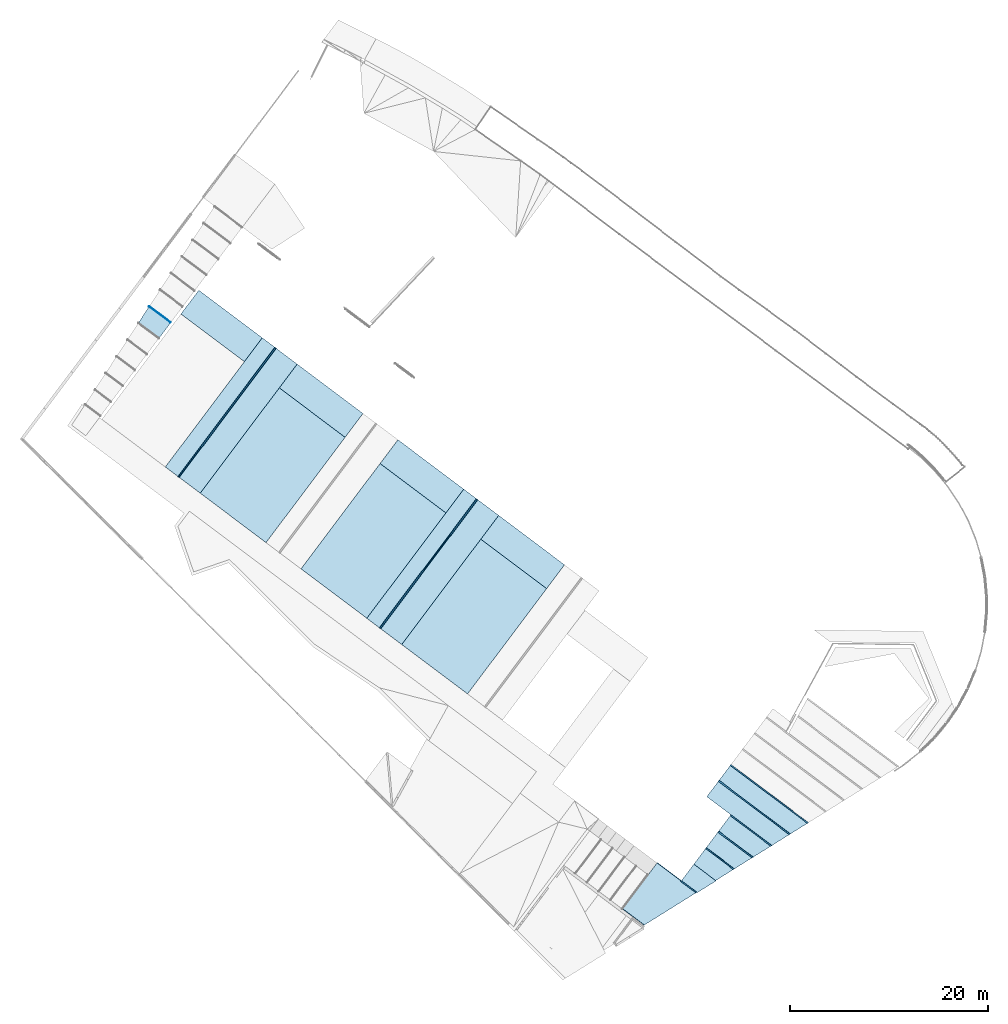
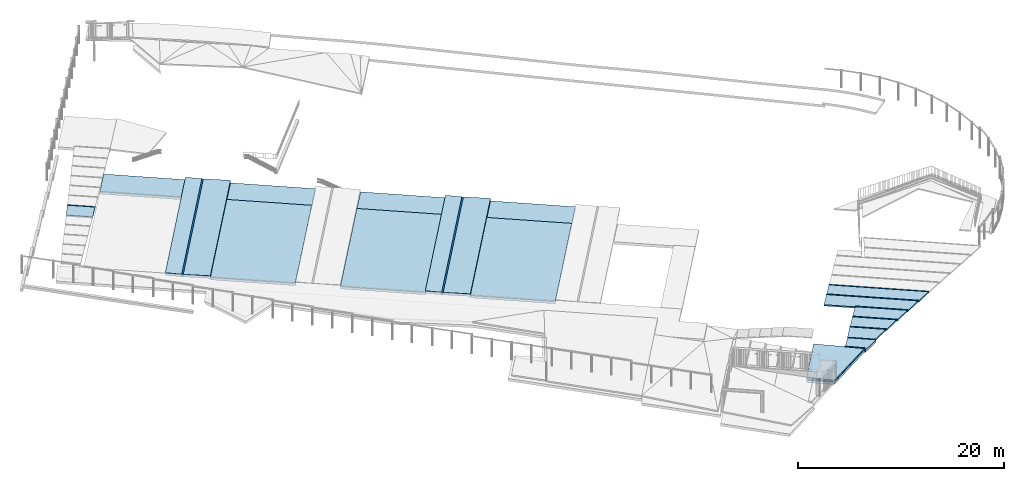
# One storey, part 21 of 33: 29 slabs.
"""IFC2X3 building model written with IfcOpenShell, lengths in metres."""

from ifc_helpers import new_model, entity, si_unit, converted_unit, derived_unit, direction, frame, frame_2d, origin, origin_2d_with_axis, place, context, subcontext, project, spatial, polyline, rectangle, outline, extrude, clip, halfspace, material, layer, layer_set, layer_usage, type_object, element, save


model = new_model("IFC2X3")

# Units and contexts
model_context = context("Model", 3, precision=1e-05, world=origin(), true_north=direction((6.123031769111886e-17, 1.0)))
body_context = subcontext(model_context, "Body", "Model", "MODEL_VIEW")
ifc_project = project(units=[si_unit("LENGTHUNIT", "METRE"), si_unit("AREAUNIT", "SQUARE_METRE"), si_unit("VOLUMEUNIT", "CUBIC_METRE"), converted_unit("PLANEANGLEUNIT", "DEGREE", entity("IfcRatioMeasure", 0.017453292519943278), si_unit("PLANEANGLEUNIT", "RADIAN"), dimensions=[0, 0, 0, 0, 0, 0, 0]), si_unit("MASSUNIT", "GRAM", prefix="KILO"), derived_unit("MASSDENSITYUNIT", [(si_unit("MASSUNIT", "GRAM", prefix="KILO"), 1), (si_unit("LENGTHUNIT", "METRE"), -3)]), derived_unit("IONCONCENTRATIONUNIT", [(si_unit("MASSUNIT", "GRAM", prefix="KILO"), 1), (si_unit("LENGTHUNIT", "METRE"), -3)]), derived_unit("MOMENTOFINERTIAUNIT", [(si_unit("LENGTHUNIT", "METRE"), 4)]), si_unit("TIMEUNIT", "SECOND"), si_unit("FREQUENCYUNIT", "HERTZ"), si_unit("THERMODYNAMICTEMPERATUREUNIT", "DEGREE_CELSIUS"), derived_unit("THERMALTRANSMITTANCEUNIT", [(si_unit("MASSUNIT", "GRAM", prefix="KILO"), 1), (si_unit("THERMODYNAMICTEMPERATUREUNIT", "KELVIN"), -1), (si_unit("TIMEUNIT", "SECOND"), -3)]), derived_unit("THERMALCONDUCTANCEUNIT", [(si_unit("MASSUNIT", "GRAM", prefix="KILO"), 1), (si_unit("THERMODYNAMICTEMPERATUREUNIT", "KELVIN"), -1), (si_unit("TIMEUNIT", "SECOND"), -3), (si_unit("LENGTHUNIT", "METRE"), 1)]), derived_unit("VOLUMETRICFLOWRATEUNIT", [(si_unit("LENGTHUNIT", "METRE"), 3), (si_unit("TIMEUNIT", "SECOND"), -1)]), derived_unit("MASSFLOWRATEUNIT", [(si_unit("MASSUNIT", "GRAM", prefix="KILO"), 1), (si_unit("TIMEUNIT", "SECOND"), -1)]), derived_unit("ROTATIONALFREQUENCYUNIT", [(si_unit("TIMEUNIT", "SECOND"), -1)]), si_unit("ELECTRICCURRENTUNIT", "AMPERE"), si_unit("ELECTRICVOLTAGEUNIT", "VOLT"), si_unit("POWERUNIT", "WATT"), si_unit("FORCEUNIT", "NEWTON", prefix="KILO"), si_unit("ILLUMINANCEUNIT", "LUX"), si_unit("LUMINOUSFLUXUNIT", "LUMEN"), si_unit("LUMINOUSINTENSITYUNIT", "CANDELA"), derived_unit("USERDEFINED", [(si_unit("MASSUNIT", "GRAM", prefix="KILO"), -1), (si_unit("LENGTHUNIT", "METRE"), -2), (si_unit("TIMEUNIT", "SECOND"), 3), (si_unit("LUMINOUSFLUXUNIT", "LUMEN"), 1)]), derived_unit("USERDEFINED", [(si_unit("MASSUNIT", "GRAM", prefix="KILO"), 1), (si_unit("TIMEUNIT", "SECOND"), -3), (si_unit("LENGTHUNIT", "METRE"), 3), (si_unit("ELECTRICCURRENTUNIT", "AMPERE"), -2)]), derived_unit("SOUNDPOWERUNIT", [(si_unit("MASSUNIT", "GRAM", prefix="KILO"), 1), (si_unit("TIMEUNIT", "SECOND"), -3), (si_unit("LENGTHUNIT", "METRE"), 2)]), derived_unit("SOUNDPRESSUREUNIT", [(si_unit("MASSUNIT", "GRAM", prefix="KILO"), 1), (si_unit("LENGTHUNIT", "METRE"), -1), (si_unit("TIMEUNIT", "SECOND"), -2)]), derived_unit("LINEARVELOCITYUNIT", [(si_unit("LENGTHUNIT", "METRE"), 1), (si_unit("TIMEUNIT", "SECOND"), -1)]), si_unit("PRESSUREUNIT", "PASCAL"), derived_unit("USERDEFINED", [(si_unit("MASSUNIT", "GRAM", prefix="KILO"), 1), (si_unit("LENGTHUNIT", "METRE"), -2), (si_unit("TIMEUNIT", "SECOND"), -2)]), derived_unit("LINEARFORCEUNIT", [(si_unit("MASSUNIT", "GRAM", prefix="KILO"), 1), (si_unit("TIMEUNIT", "SECOND"), -2)]), derived_unit("PLANARFORCEUNIT", [(si_unit("MASSUNIT", "GRAM", prefix="KILO"), 1), (si_unit("LENGTHUNIT", "METRE"), -1), (si_unit("TIMEUNIT", "SECOND"), -2)]), derived_unit("SPECIFICHEATCAPACITYUNIT", [(si_unit("THERMODYNAMICTEMPERATUREUNIT", "KELVIN"), -1), (si_unit("LENGTHUNIT", "METRE"), 2), (si_unit("TIMEUNIT", "SECOND"), -2)]), derived_unit("HEATINGVALUEUNIT", [(si_unit("LENGTHUNIT", "METRE"), 2), (si_unit("TIMEUNIT", "SECOND"), -2)]), derived_unit("VAPORPERMEABILITYUNIT", [(si_unit("LENGTHUNIT", "METRE"), -1), (si_unit("TIMEUNIT", "SECOND"), 1)]), derived_unit("DYNAMICVISCOSITYUNIT", [(si_unit("MASSUNIT", "GRAM", prefix="KILO"), 1), (si_unit("TIMEUNIT", "SECOND"), -1), (si_unit("LENGTHUNIT", "METRE"), -1)]), derived_unit("THERMALEXPANSIONCOEFFICIENTUNIT", [(si_unit("THERMODYNAMICTEMPERATUREUNIT", "KELVIN"), -1)]), derived_unit("MODULUSOFELASTICITYUNIT", [(si_unit("MASSUNIT", "GRAM", prefix="KILO"), 1), (si_unit("LENGTHUNIT", "METRE"), -1), (si_unit("TIMEUNIT", "SECOND"), -2)]), derived_unit("ISOTHERMALMOISTURECAPACITYUNIT", [(si_unit("LENGTHUNIT", "METRE"), 3), (si_unit("MASSUNIT", "GRAM", prefix="KILO"), -1)]), derived_unit("MOISTUREDIFFUSIVITYUNIT", [(si_unit("TIMEUNIT", "SECOND"), -1), (si_unit("LENGTHUNIT", "METRE"), 2)])], contexts=[model_context])

# Site, building, storey
site_placement = place(None, origin())
site = spatial("IfcSite", under=ifc_project, at=site_placement, Name="Superficie", CompositionType="ELEMENT")
building_placement = place(site_placement, frame((0.0, 0.0, 235.0), z_axis=(0.0, 0.0, 1.0), x_axis=(-0.7996477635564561, 0.6004693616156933, 0.0)))
building = spatial("IfcBuilding", under=site, at=building_placement, CompositionType="ELEMENT")
storey_placement = place(building_placement, origin())
storey = spatial("IfcBuildingStorey", under=building, at=storey_placement, Name="P0- Escola", CompositionType="ELEMENT", Elevation=0.0)

# Slabs
ifc_material_1 = material(Name="_Topografia- Plataformes")
ifc_layer_1 = layer(ifc_material_1, 0.29999999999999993)
ifc_layer_set_1 = layer_set([ifc_layer_1], Name="Plataforma:300 mm")
ifc_layer_usage_1 = layer_usage(ifc_layer_set_1, "AXIS3", "POSITIVE", 0.0)
slab_type_1 = type_object("IfcSlabType", Name="Plataforma:300 mm", PredefinedType="FLOOR", material=ifc_layer_set_1)
slab_1_placement = place(storey_placement, frame((-3.0000921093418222, -20.115191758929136, -2.5974377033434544)))
element("IfcSlab", 1, at=slab_1_placement, inside=storey, type_object=slab_type_1, material=ifc_layer_usage_1, Name="Plataforma:300 mm", ObjectType="Plataforma:300 mm", PredefinedType="FLOOR", context=body_context, shape_type="SweptSolid", body=[
    extrude(outline(polyline([(1.6144907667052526, -2.0816294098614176), (1.6144907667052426, 0.0), (-1.191434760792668, 0.0), (-0.38909900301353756, -2.0816294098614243), (1.6144907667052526, -2.0816294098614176)])), frame((1.191434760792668, 0.0, 0.30095846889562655), z_axis=(0.0, 0.07974522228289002, -0.9968152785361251), x_axis=(1.0, 0.0, 0.0)), (0.0, 0.07974522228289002, 0.9968152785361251), 0.3009584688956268),
])
slab_2_placement = place(storey_placement, origin())
element("IfcSlab", 2, at=slab_2_placement, inside=storey, type_object=slab_type_1, material=ifc_layer_usage_1, Name="Plataforma:300 mm", ObjectType="Plataforma:300 mm", PredefinedType="FLOOR", context=body_context, shape_type="SweptSolid", body=[
    extrude(outline(polyline([(-2.937500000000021, -1.926781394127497), (2.9375000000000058, -1.926781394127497), (2.9375000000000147, 0.7909568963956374), (-2.9375000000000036, 3.0626058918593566), (-2.937500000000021, -1.926781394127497)])), frame((0.9183662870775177, -15.102691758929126, -2.3363473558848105), z_axis=(0.0, 0.0, 1.0), x_axis=(0.0, 1.0, 0.0)), (0.0, 0.0, 1.0), 0.30000000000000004),
])
slab_3_placement = place(storey_placement, origin())
element("IfcSlab", 3, at=slab_3_placement, inside=storey, type_object=slab_type_1, material=ifc_layer_usage_1, Name="Plataforma:300 mm", ObjectType="Plataforma:300 mm", PredefinedType="FLOOR", context=body_context, shape_type="SweptSolid", body=[
    extrude(rectangle(XDim=8.300000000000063, YDim=13.274999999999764, at=frame_2d((-4.440892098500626e-15, -8.881784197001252e-15), x_axis=(1.0, 0.0))), frame((32.495147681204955, -26.777691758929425, -0.7000000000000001), z_axis=(0.0, 0.0, 1.0), x_axis=(-1.0, 0.0, 0.0)), (0.0, 0.0, 1.0), 0.30000000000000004),
])
slab_4_placement = place(storey_placement, origin())
element("IfcSlab", 4, at=slab_4_placement, inside=storey, type_object=slab_type_1, material=ifc_layer_usage_1, Name="Plataforma:300 mm", ObjectType="Plataforma:300 mm", PredefinedType="FLOOR", context=body_context, shape_type="SweptSolid", body=[
    extrude(rectangle(XDim=13.274999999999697, YDim=8.300000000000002, at=frame_2d((2.220446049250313e-15, 0.0), x_axis=(1.0, 0.0))), frame((45.19514768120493, -26.777691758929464, -0.7000000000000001), z_axis=(0.0, 0.0, 1.0), x_axis=(0.0, 1.0, 0.0)), (0.0, 0.0, 1.0), 0.30000000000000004),
])
slab_5_placement = place(storey_placement, origin())
element("IfcSlab", 5, at=slab_5_placement, inside=storey, type_object=slab_type_1, material=ifc_layer_usage_1, Name="Plataforma:300 mm", ObjectType="Plataforma:300 mm", PredefinedType="FLOOR", context=body_context, shape_type="SweptSolid", body=[
    extrude(rectangle(XDim=13.274999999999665, YDim=8.300000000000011, at=frame_2d((2.220446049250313e-15, -3.9968028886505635e-15), x_axis=(1.0, 0.0))), frame((57.89514768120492, -26.777691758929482, -0.7000000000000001), z_axis=(0.0, 0.0, 1.0), x_axis=(0.0, 1.0, 0.0)), (0.0, 0.0, 1.0), 0.30000000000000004),
])
slab_6_placement = place(storey_placement, origin())
element("IfcSlab", 6, at=slab_6_placement, inside=storey, type_object=slab_type_1, material=ifc_layer_usage_1, Name="Plataforma:300 mm", ObjectType="Plataforma:300 mm", PredefinedType="FLOOR", context=body_context, shape_type="SweptSolid", body=[
    extrude(rectangle(XDim=8.300000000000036, YDim=2.9999999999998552, at=origin_2d_with_axis()), frame((57.89514768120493, -34.91519175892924, -0.82), z_axis=(0.0, 0.0, 1.0), x_axis=(-1.0, 0.0, 0.0)), (0.0, 0.0, 1.0), 0.29999999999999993),
])
slab_7_placement = place(storey_placement, origin())
element("IfcSlab", 7, at=slab_7_placement, inside=storey, type_object=slab_type_1, material=ifc_layer_usage_1, Name="Plataforma:300 mm", ObjectType="Plataforma:300 mm", PredefinedType="FLOOR", context=body_context, shape_type="SweptSolid", body=[
    extrude(rectangle(XDim=8.300000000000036, YDim=2.9999999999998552, at=origin_2d_with_axis()), frame((45.195147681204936, -34.9151917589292, -0.82), z_axis=(0.0, 0.0, 1.0), x_axis=(-1.0, 0.0, 0.0)), (0.0, 0.0, 1.0), 0.29999999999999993),
])
slab_8_placement = place(storey_placement, origin())
element("IfcSlab", 8, at=slab_8_placement, inside=storey, type_object=slab_type_1, material=ifc_layer_usage_1, Name="Plataforma:300 mm", ObjectType="Plataforma:300 mm", PredefinedType="FLOOR", context=body_context, shape_type="SweptSolid", body=[
    extrude(rectangle(XDim=8.300000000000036, YDim=2.9999999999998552, at=origin_2d_with_axis()), frame((32.49514768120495, -34.91519175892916, -0.82), z_axis=(0.0, 0.0, 1.0), x_axis=(-1.0, 0.0, 0.0)), (0.0, 0.0, 1.0), 0.29999999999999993),
])
slab_9_placement = place(storey_placement, origin())
element("IfcSlab", 9, at=slab_9_placement, inside=storey, type_object=slab_type_1, material=ifc_layer_usage_1, Name="Plataforma:300 mm", ObjectType="Plataforma:300 mm", PredefinedType="FLOOR", context=body_context, shape_type="SweptSolid", body=[
    extrude(rectangle(XDim=7.999999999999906, YDim=2.9999999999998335, at=frame_2d((-4.218847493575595e-15, 2.220446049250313e-15), x_axis=(1.0, 0.0))), frame((70.44514768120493, -34.915191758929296, -0.82), z_axis=(0.0, 0.0, 1.0), x_axis=(-1.0, 0.0, 0.0)), (0.0, 0.0, 1.0), 0.29999999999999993),
])
slab_10_placement = place(storey_placement, frame((36.645147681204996, -36.415191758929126, -0.570053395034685)))
element("IfcSlab", 10, at=slab_10_placement, inside=storey, type_object=slab_type_1, material=ifc_layer_usage_1, Name="Plataforma:300 mm", ObjectType="Plataforma:300 mm", PredefinedType="FLOOR", context=body_context, shape_type="SweptSolid", body=[
    extrude(rectangle(XDim=16.27499999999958, YDim=2.6504716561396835, at=frame_2d((1.3252358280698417, 0.0), x_axis=(0.0, -1.0))), frame((0.0, 8.137499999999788, 0.350053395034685), z_axis=(0.018864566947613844, 0.0, 0.9998220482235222), x_axis=(0.9998220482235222, 0.0, -0.018864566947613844)), (0.018864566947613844, 0.0, -0.9998220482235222), 0.3000533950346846),
])
slab_11_placement = place(storey_placement, frame((39.44514768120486, -36.41519175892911, -0.5701464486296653)))
element("IfcSlab", 11, at=slab_11_placement, inside=storey, type_object=slab_type_1, material=ifc_layer_usage_1, Name="Plataforma:300 mm", ObjectType="Plataforma:300 mm", PredefinedType="FLOOR", context=body_context, shape_type="SweptSolid", body=[
    extrude(rectangle(XDim=16.274999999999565, YDim=1.600781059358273, at=frame_2d((-0.8003905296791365, 0.0), x_axis=(0.0, 1.0))), frame((1.6000000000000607, 8.137499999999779, 0.3501464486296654), z_axis=(0.031234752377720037, 0.0, -0.9995120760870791), x_axis=(0.9995120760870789, 0.0, 0.03123475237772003)), (-0.03123475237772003, 0.0, 0.9995120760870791), 0.3001464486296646),
])
slab_12_placement = place(storey_placement, origin())
element("IfcSlab", 12, at=slab_12_placement, inside=storey, type_object=slab_type_1, material=ifc_layer_usage_1, Name="Plataforma:300 mm", ObjectType="Plataforma:300 mm", PredefinedType="FLOOR", context=body_context, shape_type="SweptSolid", body=[
    extrude(rectangle(XDim=0.1499999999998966, YDim=16.27499999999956, at=frame_2d((0.0, -1.7763568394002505e-15), x_axis=(1.0, 0.0))), frame((39.37014768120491, -28.27769175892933, -0.57), z_axis=(0.0, 0.0, 1.0), x_axis=(-1.0, 0.0, 0.0)), (0.0, 0.0, 1.0), 0.29999999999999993),
])
slab_13_placement = place(storey_placement, frame((64.84514768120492, -36.415191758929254, -0.5701464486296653)))
element("IfcSlab", 13, at=slab_13_placement, inside=storey, type_object=slab_type_1, material=ifc_layer_usage_1, Name="Plataforma:300 mm", ObjectType="Plataforma:300 mm", PredefinedType="FLOOR", context=body_context, shape_type="SweptSolid", body=[
    extrude(rectangle(XDim=16.274999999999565, YDim=1.600781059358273, at=frame_2d((-0.8003905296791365, 0.0), x_axis=(0.0, 1.0))), frame((1.6000000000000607, 8.137499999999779, 0.3501464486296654), z_axis=(0.031234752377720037, 0.0, -0.9995120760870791), x_axis=(0.9995120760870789, 0.0, 0.03123475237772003)), (-0.03123475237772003, 0.0, 0.9995120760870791), 0.3001464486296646),
])
slab_14_placement = place(storey_placement, frame((62.04514768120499, -36.415191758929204, -0.570053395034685)))
element("IfcSlab", 14, at=slab_14_placement, inside=storey, type_object=slab_type_1, material=ifc_layer_usage_1, Name="Plataforma:300 mm", ObjectType="Plataforma:300 mm", PredefinedType="FLOOR", context=body_context, shape_type="SweptSolid", body=[
    extrude(rectangle(XDim=16.27499999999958, YDim=2.6504716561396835, at=frame_2d((1.3252358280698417, 0.0), x_axis=(0.0, -1.0))), frame((0.0, 8.137499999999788, 0.350053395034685), z_axis=(0.018864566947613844, 0.0, 0.9998220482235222), x_axis=(0.9998220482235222, 0.0, -0.018864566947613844)), (0.018864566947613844, 0.0, -0.9998220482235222), 0.3000533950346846),
])
slab_15_placement = place(storey_placement, origin())
element("IfcSlab", 15, at=slab_15_placement, inside=storey, type_object=slab_type_1, material=ifc_layer_usage_1, Name="Plataforma:300 mm", ObjectType="Plataforma:300 mm", PredefinedType="FLOOR", context=body_context, shape_type="SweptSolid", body=[
    extrude(rectangle(XDim=0.1499999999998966, YDim=16.27499999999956, at=frame_2d((0.0, -1.7763568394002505e-15), x_axis=(1.0, 0.0))), frame((64.7701476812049, -28.277691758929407, -0.57), z_axis=(0.0, 0.0, 1.0), x_axis=(-1.0, 0.0, 0.0)), (0.0, 0.0, 1.0), 0.29999999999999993),
])
ifc_material_2 = material(Name="_Formigó- Solera- T1- STR")
ifc_layer_2 = layer(ifc_material_2, 0.14999999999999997)
ifc_layer_set_2 = layer_set([ifc_layer_2], Name="Suelo:STR- L- Formigó- Solera- T1- 15 cm")
ifc_layer_usage_2 = layer_usage(ifc_layer_set_2, "AXIS3", "POSITIVE", 0.0)
slab_type_2 = type_object("IfcSlabType", Name="Suelo:STR- L- Formigó- Solera- T1- 15 cm", PredefinedType="FLOOR", material=ifc_layer_set_2)
slab_16_placement = place(storey_placement, origin())
element("IfcSlab", 16, at=slab_16_placement, inside=storey, type_object=slab_type_2, material=ifc_layer_usage_2, Name="Suelo:STR- L- Formigó- Solera- T1- 15 cm", ObjectType="Suelo:STR- L- Formigó- Solera- T1- 15 cm", PredefinedType="FLOOR", context=body_context, shape_type="SweptSolid", body=[
    clip(clip(extrude(outline(polyline([(-0.04012779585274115, -1.359434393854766), (0.04012779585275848, -1.359434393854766), (0.04012779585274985, 1.3568001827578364), (-0.04012779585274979, 1.362068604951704), (-0.04012779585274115, -1.359434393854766)])), frame((76.10458207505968, -32.100191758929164, -1.438799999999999), z_axis=(0.0, 0.0797452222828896, -0.9968152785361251), x_axis=(0.0, 0.9968152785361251, 0.0797452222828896)), (-0.0797452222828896, 0.0, 0.9968152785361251), 0.15096000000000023), halfspace(frame((74.74514768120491, -32.06019175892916, -1.5860792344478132), z_axis=(0.0, 0.07974522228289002, -0.9968152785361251), x_axis=(0.0, 0.9968152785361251, 0.07974522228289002)), False)), halfspace(frame((74.74514768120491, -32.06019175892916, -1.4355999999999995), z_axis=(0.0, -0.07974522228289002, 0.9968152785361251), x_axis=(0.0, -0.9968152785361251, -0.07974522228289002)), False)),
])
slab_17_placement = place(storey_placement, origin())
element("IfcSlab", 17, at=slab_17_placement, inside=storey, type_object=slab_type_2, material=ifc_layer_usage_2, Name="Suelo:STR- L- Formigó- Solera- T1- 15 cm", ObjectType="Suelo:STR- L- Formigó- Solera- T1- 15 cm", PredefinedType="FLOOR", context=body_context, shape_type="SweptSolid", body=[
    clip(clip(extrude(outline(polyline([(-1.767697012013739, -0.050159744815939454), (1.787030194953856, -0.05015974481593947), (1.7483638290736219, 0.050159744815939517), (-1.7676970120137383, 0.05015974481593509), (-1.767697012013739, -0.050159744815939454)])), frame((-1.9618635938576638, -22.14019175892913, -2.388000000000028), z_axis=(0.0, 0.07974522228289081, -0.996815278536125), x_axis=(-1.0, 0.0, 0.0)), (0.0, -0.07974522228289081, 0.996815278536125), 0.1509600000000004), halfspace(frame((-2.164852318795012, -22.19019175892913, -2.5424792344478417), z_axis=(0.0, 0.07974522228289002, -0.9968152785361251), x_axis=(0.0, 0.9968152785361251, 0.07974522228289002)), False)), halfspace(frame((-2.164852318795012, -22.19019175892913, -2.392000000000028), z_axis=(0.0, -0.07974522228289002, 0.9968152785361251), x_axis=(0.0, -0.9968152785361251, -0.07974522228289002)), False)),
])
slab_18_placement = place(storey_placement, origin())
element("IfcSlab", 18, at=slab_18_placement, inside=storey, type_object=slab_type_2, material=ifc_layer_usage_2, Name="Suelo:STR- L- Formigó- Solera- T1- 15 cm", ObjectType="Suelo:STR- L- Formigó- Solera- T1- 15 cm", PredefinedType="FLOOR", context=body_context, shape_type="SweptSolid", body=[
    clip(clip(extrude(outline(polyline([(-2.168860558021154, -0.05015974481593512), (2.1881937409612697, -0.05015974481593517), (2.149527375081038, 0.050159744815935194), (-2.168860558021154, 0.05015974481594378), (-2.168860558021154, -0.05015974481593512)])), frame((-2.3630271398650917, -24.215191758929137, -2.634000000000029), z_axis=(0.0, 0.07974522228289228, -0.9968152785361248), x_axis=(-1.0, 0.0, 0.0)), (0.0, -0.07974522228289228, 0.9968152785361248), 0.15096000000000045), halfspace(frame((-2.457165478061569, -24.265191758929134, -2.7884792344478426), z_axis=(0.0, 0.07974522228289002, -0.9968152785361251), x_axis=(0.0, 0.9968152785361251, 0.07974522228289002)), False)), halfspace(frame((-2.457165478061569, -24.265191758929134, -2.6380000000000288), z_axis=(0.0, -0.07974522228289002, 0.9968152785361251), x_axis=(0.0, -0.9968152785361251, -0.07974522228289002)), False)),
])
slab_19_placement = place(storey_placement, origin())
element("IfcSlab", 19, at=slab_19_placement, inside=storey, type_object=slab_type_2, material=ifc_layer_usage_2, Name="Suelo:STR- L- Formigó- Solera- T1- 15 cm", ObjectType="Suelo:STR- L- Formigó- Solera- T1- 15 cm", PredefinedType="FLOOR", context=body_context, shape_type="SweptSolid", body=[
    clip(clip(extrude(outline(polyline([(-4.486011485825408, -0.05015974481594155), (4.505344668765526, -0.05015974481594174), (4.466678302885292, 0.0501597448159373), (-4.486011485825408, 0.05015974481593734), (-4.486011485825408, -0.05015974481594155)])), frame((-1.6408638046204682, -28.340191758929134, -3.124016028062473), z_axis=(0.0, 0.0797452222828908, -0.996815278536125), x_axis=(-1.0, 0.0, 0.0)), (0.0, -0.0797452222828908, 0.996815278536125), 0.1509600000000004), halfspace(frame((-2.7608358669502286, -28.390191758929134, -3.278495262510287), z_axis=(0.0, 0.07974522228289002, -0.9968152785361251), x_axis=(0.0, 0.9968152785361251, 0.07974522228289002)), False)), halfspace(frame((-2.7608358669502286, -28.390191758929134, -3.1280160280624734), z_axis=(0.0, -0.07974522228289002, 0.9968152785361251), x_axis=(0.0, -0.9968152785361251, -0.07974522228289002)), False)),
])
slab_20_placement = place(storey_placement, origin())
element("IfcSlab", 20, at=slab_20_placement, inside=storey, type_object=slab_type_2, material=ifc_layer_usage_2, Name="Suelo:STR- L- Formigó- Solera- T1- 15 cm", ObjectType="Suelo:STR- L- Formigó- Solera- T1- 15 cm", PredefinedType="FLOOR", context=body_context, shape_type="SweptSolid", body=[
    clip(clip(extrude(outline(polyline([(-4.872675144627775, -0.05015974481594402), (4.892008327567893, -0.05015974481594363), (4.853341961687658, 0.05015974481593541), (-4.872675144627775, 0.050159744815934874), (-4.872675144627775, -0.05015974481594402)])), frame((-2.0275274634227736, -30.34019175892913, -3.3640160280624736), z_axis=(0.0, 0.07974522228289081, -0.996815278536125), x_axis=(-1.0, 0.0, 0.0)), (0.0, -0.07974522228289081, 0.996815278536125), 0.15096000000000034), halfspace(frame((-2.7608358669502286, -30.39019175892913, -3.5184952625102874), z_axis=(0.0, 0.07974522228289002, -0.9968152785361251), x_axis=(0.0, 0.9968152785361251, 0.07974522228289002)), False)), halfspace(frame((-2.7608358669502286, -30.39019175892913, -3.368016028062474), z_axis=(0.0, -0.07974522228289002, 0.9968152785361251), x_axis=(0.0, -0.9968152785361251, -0.07974522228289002)), False)),
])
slab_21_placement = place(storey_placement, origin())
element("IfcSlab", 21, at=slab_21_placement, inside=storey, type_object=slab_type_2, material=ifc_layer_usage_2, Name="Suelo:STR- L- Formigó- Solera- T1- 15 cm", ObjectType="Suelo:STR- L- Formigó- Solera- T1- 15 cm", PredefinedType="FLOOR", context=body_context, shape_type="SweptSolid", body=[
    clip(clip(extrude(outline(polyline([(-2.5700241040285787, -0.05015974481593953), (2.5893572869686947, -0.0501597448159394), (2.5506909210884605, 0.050159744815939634), (-2.570024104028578, 0.05015974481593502), (-2.5700241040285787, -0.05015974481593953)])), frame((-2.7641906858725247, -26.29019175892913, -2.8800000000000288), z_axis=(0.0, 0.0797452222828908, -0.996815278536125), x_axis=(-1.0, 0.0, 0.0)), (0.0, -0.0797452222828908, 0.996815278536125), 0.15096000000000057), halfspace(frame((-2.7608358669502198, -26.34019175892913, -3.034479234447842), z_axis=(0.0, 0.07974522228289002, -0.9968152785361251), x_axis=(0.0, 0.9968152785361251, 0.07974522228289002)), False)), halfspace(frame((-2.7608358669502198, -26.34019175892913, -2.8840000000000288), z_axis=(0.0, -0.07974522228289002, 0.9968152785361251), x_axis=(0.0, -0.9968152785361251, -0.07974522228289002)), False)),
])
slab_22_placement = place(storey_placement, origin())
element("IfcSlab", 22, at=slab_22_placement, inside=storey, type_object=slab_type_2, material=ifc_layer_usage_2, Name="Suelo:STR- L- Formigó- Solera- T1- 15 cm", ObjectType="Suelo:STR- L- Formigó- Solera- T1- 15 cm", PredefinedType="FLOOR", context=body_context, shape_type="SweptSolid", body=[
    clip(clip(extrude(outline(polyline([(-0.9655629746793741, -0.049999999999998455), (0.9849000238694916, -0.049999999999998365), (0.9462259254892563, 0.049999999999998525), (-0.9655629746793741, 0.0499999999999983), (-0.9655629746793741, -0.049999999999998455)])), frame((-1.1595365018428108, -17.990191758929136, -1.879219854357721), z_axis=(0.019996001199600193, 0.0, -0.9998000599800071), x_axis=(-0.9998000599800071, 0.0, -0.019996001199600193)), (0.019996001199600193, 0.0, 0.9998000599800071), 0.15006000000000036), halfspace(frame((-2.124906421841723, -17.990191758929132, -2.048557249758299), z_axis=(0.01999600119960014, 0.0, -0.999800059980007), x_axis=(0.999800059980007, 0.0, 0.01999600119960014)), False)), halfspace(frame((-2.124906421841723, -17.990191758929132, -1.898527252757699), z_axis=(-0.01999600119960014, 0.0, 0.999800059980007), x_axis=(-0.999800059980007, 0.0, -0.01999600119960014)), False)),
])
ifc_material_3 = material(Name="_Saulo T1- PAV")
ifc_layer_3 = layer(ifc_material_3, 0.14999999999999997)
ifc_layer_set_3 = layer_set([ifc_layer_3], Name="Suelo:PAV- Saulo- 15 cm- T1")
ifc_layer_usage_3 = layer_usage(ifc_layer_set_3, "AXIS3", "POSITIVE", 0.0)
slab_type_3 = type_object("IfcSlabType", Name="Suelo:PAV- Saulo- 15 cm- T1", PredefinedType="FLOOR", material=ifc_layer_set_3)
slab_23_placement = place(storey_placement, origin())
element("IfcSlab", 23, at=slab_23_placement, inside=storey, type_object=slab_type_3, material=ifc_layer_usage_3, Name="Suelo:PAV- Saulo- 15 cm- T1", ObjectType="Suelo:PAV- Saulo- 15 cm- T1", PredefinedType="FLOOR", context=body_context, shape_type="SweptSolid", body=[
    clip(clip(extrude(outline(polyline([(-0.9630671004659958, -1.3265067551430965), (0.963067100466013, -1.3265067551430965), (0.9630671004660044, 1.2632856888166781), (-0.9630671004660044, 1.3897278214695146), (-0.9630671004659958, -1.3265067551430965)])), frame((76.07165443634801, -31.100191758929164, -1.3587999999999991), z_axis=(0.0, 0.07974522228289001, -0.9968152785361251), x_axis=(0.0, 0.9968152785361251, 0.07974522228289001)), (-0.07974522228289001, 0.0, 0.9968152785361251), 0.1509600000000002), halfspace(frame((74.74514768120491, -30.14019175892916, -1.4324792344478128), z_axis=(0.0, 0.07974522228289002, -0.9968152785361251), x_axis=(0.0, 0.9968152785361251, 0.07974522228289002)), False)), halfspace(frame((74.74514768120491, -30.14019175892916, -1.2819999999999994), z_axis=(0.0, -0.07974522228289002, 0.9968152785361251), x_axis=(0.0, -0.9968152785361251, -0.07974522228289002)), False)),
])
slab_24_placement = place(storey_placement, origin())
element("IfcSlab", 24, at=slab_24_placement, inside=storey, type_object=slab_type_3, material=ifc_layer_usage_3, Name="Suelo:PAV- Saulo- 15 cm- T1", ObjectType="Suelo:PAV- Saulo- 15 cm- T1", PredefinedType="FLOOR", context=body_context, shape_type="SweptSolid", body=[
    clip(clip(extrude(outline(polyline([(-2.2948623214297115, -1.9416666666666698), (0.7450597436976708, -1.9416666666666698), (0.7450597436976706, -1.8916666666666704), (2.6568486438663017, -1.8916666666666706), (0.44275651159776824, 3.8333333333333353), (-2.2948623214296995, 3.833333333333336), (-2.2948623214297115, -1.9416666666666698)])), frame((0.5507441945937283, -16.048525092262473, -1.8458736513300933), z_axis=(0.019996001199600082, 0.0, -0.999800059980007), x_axis=(-0.999800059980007, 0.0, -0.019996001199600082)), (0.019996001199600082, 0.0, 0.999800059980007), 0.15006000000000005), halfspace(frame((-2.105573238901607, -17.940191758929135, -2.0490299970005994), z_axis=(0.01999600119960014, 0.0, -0.999800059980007), x_axis=(0.999800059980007, 0.0, 0.01999600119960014)), False)), halfspace(frame((-2.105573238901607, -17.940191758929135, -1.8989999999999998), z_axis=(-0.01999600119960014, 0.0, 0.999800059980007), x_axis=(-0.999800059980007, 0.0, -0.01999600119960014)), False)),
])
slab_25_placement = place(storey_placement, origin())
element("IfcSlab", 25, at=slab_25_placement, inside=storey, type_object=slab_type_3, material=ifc_layer_usage_3, Name="Suelo:PAV- Saulo- 15 cm- T1", ObjectType="Suelo:PAV- Saulo- 15 cm- T1", PredefinedType="FLOOR", context=body_context, shape_type="SweptSolid", body=[
    clip(clip(extrude(outline(polyline([(-1.5671152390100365, -0.9906549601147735), (1.9489456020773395, -0.9906549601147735), (1.1852848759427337, 0.990654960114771), (-1.5671152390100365, 0.9906549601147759), (-1.5671152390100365, -0.9906549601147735)])), frame((-1.7612818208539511, -21.102691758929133, -2.305000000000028), z_axis=(0.0, 0.07974522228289, -0.9968152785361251), x_axis=(-1.0, 0.0, 0.0)), (0.0, -0.07974522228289, 0.9968152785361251), 0.1509600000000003), halfspace(frame((-2.1648523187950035, -22.090191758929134, -2.534479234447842), z_axis=(0.0, 0.07974522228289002, -0.9968152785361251), x_axis=(0.0, 0.9968152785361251, 0.07974522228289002)), False)), halfspace(frame((-2.1648523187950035, -22.090191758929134, -2.3840000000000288), z_axis=(0.0, -0.07974522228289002, 0.9968152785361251), x_axis=(0.0, -0.9968152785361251, -0.07974522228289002)), False)),
])
slab_26_placement = place(storey_placement, origin())
element("IfcSlab", 26, at=slab_26_placement, inside=storey, type_object=slab_type_3, material=ifc_layer_usage_3, Name="Suelo:PAV- Saulo- 15 cm- T1", ObjectType="Suelo:PAV- Saulo- 15 cm- T1", PredefinedType="FLOOR", context=body_context, shape_type="SweptSolid", body=[
    clip(clip(extrude(outline(polyline([(-1.9682787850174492, -0.9906549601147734), (2.3501091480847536, -0.9906549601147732), (1.5864484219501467, 0.9906549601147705), (-1.9682787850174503, 0.990654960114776), (-1.9682787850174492, -0.9906549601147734)])), frame((-2.162445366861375, -23.177691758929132, -2.551000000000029), z_axis=(0.0, 0.07974522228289, -0.9968152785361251), x_axis=(-1.0, 0.0, 0.0)), (0.0, -0.07974522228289, 0.9968152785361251), 0.1509600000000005), halfspace(frame((-2.4571654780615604, -24.165191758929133, -2.7804792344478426), z_axis=(0.0, 0.07974522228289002, -0.9968152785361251), x_axis=(0.0, 0.9968152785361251, 0.07974522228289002)), False)), halfspace(frame((-2.4571654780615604, -24.165191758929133, -2.630000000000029), z_axis=(0.0, -0.07974522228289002, 0.9968152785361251), x_axis=(0.0, -0.9968152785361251, -0.07974522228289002)), False)),
])
slab_27_placement = place(storey_placement, origin())
element("IfcSlab", 27, at=slab_27_placement, inside=storey, type_object=slab_type_3, material=ifc_layer_usage_3, Name="Suelo:PAV- Saulo- 15 cm- T1", ObjectType="Suelo:PAV- Saulo- 15 cm- T1", PredefinedType="FLOOR", context=body_context, shape_type="SweptSolid", body=[
    clip(clip(extrude(outline(polyline([(-4.287826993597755, -0.9782155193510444), (4.664862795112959, -0.9782155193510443), (3.9107911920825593, 0.9782155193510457), (-4.287826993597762, 0.9782155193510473), (-4.287826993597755, -0.9782155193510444)])), frame((-1.4426793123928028, -27.31509158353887, -3.042008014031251), z_axis=(0.0, 0.07974522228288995, -0.9968152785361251), x_axis=(-1.0, 0.0, 0.0)), (0.0, -0.07974522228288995, 0.9968152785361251), 0.15096000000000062), halfspace(frame((-2.7608358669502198, -28.290191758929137, -3.270495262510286), z_axis=(0.0, 0.07974522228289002, -0.9968152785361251), x_axis=(0.0, 0.9968152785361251, 0.07974522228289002)), False)), halfspace(frame((-2.7608358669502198, -28.290191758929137, -3.1200160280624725), z_axis=(0.0, -0.07974522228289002, 0.9968152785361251), x_axis=(0.0, -0.9968152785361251, -0.07974522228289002)), False)),
])
slab_28_placement = place(storey_placement, origin())
element("IfcSlab", 28, at=slab_28_placement, inside=storey, type_object=slab_type_3, material=ifc_layer_usage_3, Name="Suelo:PAV- Saulo- 15 cm- T1", ObjectType="Suelo:PAV- Saulo- 15 cm- T1", PredefinedType="FLOOR", context=body_context, shape_type="SweptSolid", body=[
    clip(clip(extrude(outline(polyline([(-4.67934331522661, -0.953035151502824), (5.04667379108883, -0.953035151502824), (4.312012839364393, 0.9530351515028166), (-4.679343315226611, 0.9530351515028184), (-4.67934331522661, -0.953035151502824)])), frame((-1.8341956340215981, -29.340191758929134, -3.2840160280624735), z_axis=(0.0, 0.07974522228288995, -0.9968152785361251), x_axis=(-1.0, 0.0, 0.0)), (0.0, -0.07974522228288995, 0.9968152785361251), 0.15096000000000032), halfspace(frame((-2.7608358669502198, -30.290191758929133, -3.510495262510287), z_axis=(0.0, 0.07974522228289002, -0.9968152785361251), x_axis=(0.0, 0.9968152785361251, 0.07974522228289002)), False)), halfspace(frame((-2.7608358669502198, -30.290191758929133, -3.3600160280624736), z_axis=(0.0, -0.07974522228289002, 0.9968152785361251), x_axis=(0.0, -0.9968152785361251, -0.07974522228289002)), False)),
])
slab_29_placement = place(storey_placement, origin())
element("IfcSlab", 29, at=slab_29_placement, inside=storey, type_object=slab_type_3, material=ifc_layer_usage_3, Name="Suelo:PAV- Saulo- 15 cm- T1", ObjectType="Suelo:PAV- Saulo- 15 cm- T1", PredefinedType="FLOOR", context=body_context, shape_type="SweptSolid", body=[
    clip(clip(extrude(outline(polyline([(-2.3694423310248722, -0.9906549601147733), (2.7512726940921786, -0.9906549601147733), (1.9876119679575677, 0.9906549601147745), (-2.369442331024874, 0.9906549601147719), (-2.3694423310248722, -0.9906549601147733)])), frame((-2.5636089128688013, -25.25269175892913, -2.7970000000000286), z_axis=(0.0, 0.07974522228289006, -0.9968152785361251), x_axis=(-1.0, 0.0, 0.0)), (0.0, -0.07974522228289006, 0.9968152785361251), 0.1509600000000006), halfspace(frame((-2.7608358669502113, -26.240191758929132, -3.026479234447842), z_axis=(0.0, 0.07974522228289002, -0.9968152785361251), x_axis=(0.0, 0.9968152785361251, 0.07974522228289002)), False)), halfspace(frame((-2.7608358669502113, -26.240191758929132, -2.8760000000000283), z_axis=(0.0, -0.07974522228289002, 0.9968152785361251), x_axis=(0.0, -0.9968152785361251, -0.07974522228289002)), False)),
])

save(model, "model.ifc")
